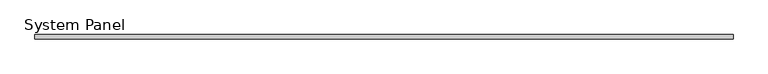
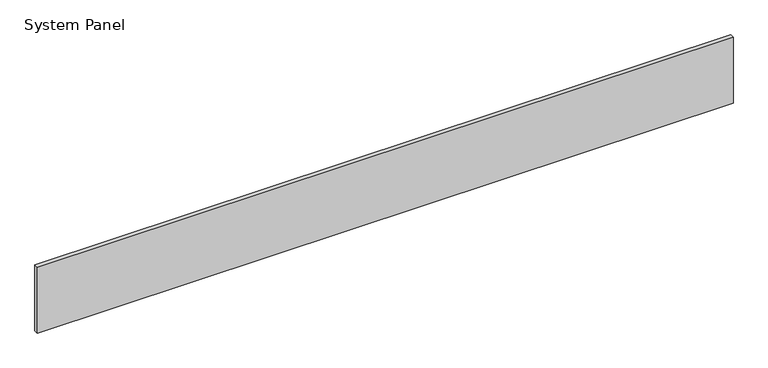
"""IFC4 building model written with IfcOpenShell, lengths in millimetres: plate geometry, System Panel : Equitilt_75mm_Plain_Surfmist."""

from ifc_helpers import new_model, si_unit, origin, origin_with_axes, place, context, project, spatial, polyline, outline, extrude, source, transform, mapped, element, save


def system_panel_4373b866(model_context):
    return source(origin(), model_context, "Body", "SweptSolid", [
        extrude(outline(polyline([(6000.0, 0.0), (-6000.0, 0.0), (-6000.0, 75.0), (6000.0, 75.0), (6000.0, 0.0)])), origin_with_axes(), (0.0, 0.0, 1.0), 1200.0),
    ])


if __name__ == "__main__":
    model = new_model("IFC4")
    model_context = context("Model", 3, world=origin())
    ifc_project = project(units=[si_unit("LENGTHUNIT", "METRE", prefix="MILLI")], contexts=[model_context])
    site = spatial("IfcSite", under=ifc_project)
    building = spatial("IfcBuilding", under=site)
    placement = place(None, origin())
    system_panel_shape = system_panel_4373b866(model_context)
    element("IfcPlate", 1, ObjectType="System Panel : Equitilt_75mm_Plain_Surfmist", at=placement, inside=building, context=model_context, shape_type="MappedRepresentation", body=[
        mapped(system_panel_shape, transform((0.0, 0.0, 0.0), x_axis=(1.0, 0.0, 0.0), y_axis=(0.0, 1.0, 0.0), z_axis=(0.0, 0.0, 1.0))),
    ])
    save(model, "model.ifc")
